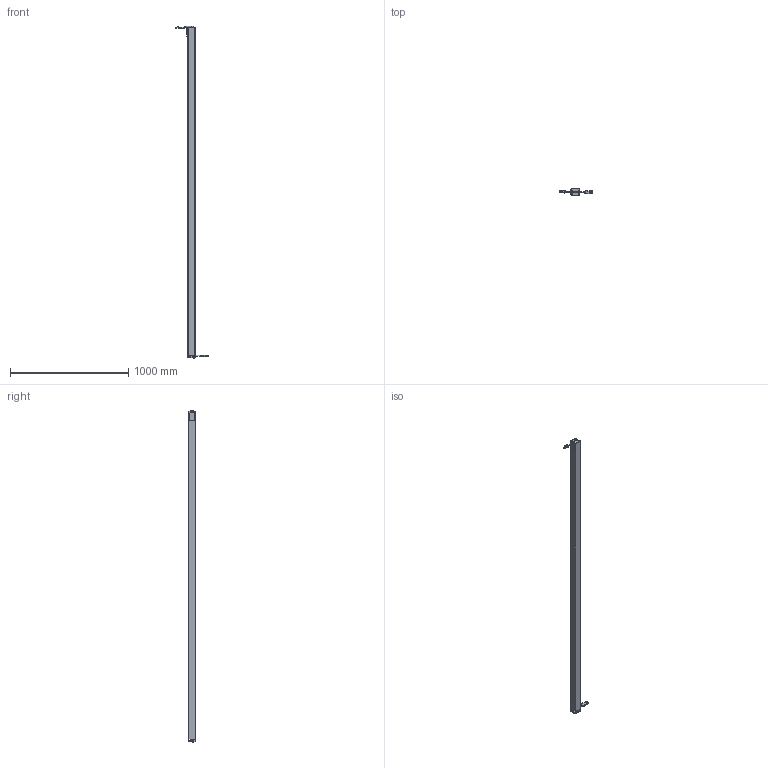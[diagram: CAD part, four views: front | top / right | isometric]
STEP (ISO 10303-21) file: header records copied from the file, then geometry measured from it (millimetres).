
FILE_DESCRIPTION (( 'STEP AP214' ), '1' );
FILE_NAME ('1001645.STEP', '2025-09-16T08:11:14', ( '' ), ( '' ), 'SwSTEP 2.0', 'SolidWorks 2025', '' );
FILE_SCHEMA (( 'AUTOMOTIVE_DESIGN' ));
Length unit declared in the file: millimetre
Products named in the file (1): 1001645
Bounding box: 283.5 x 61.2 x 2808.6 mm (x, y, z)
Volume: 10179877.6 mm3; surface area: 769601.8 mm2
Topology: 16 solids, 16 shells, 1166 faces, 3092 edges, 2013 vertices
Faces by surface type: plane 800, cylinder 219, bspline 50, torus 42, cone 33, sphere 22
Entity records: 39260 total; most frequent: CARTESIAN_POINT 10120, ORIENTED_EDGE 6160, DIRECTION 5748, EDGE_CURVE 3080, LINE 2398, VECTOR 2398, VERTEX_POINT 2007, AXIS2_PLACEMENT_3D 1675
